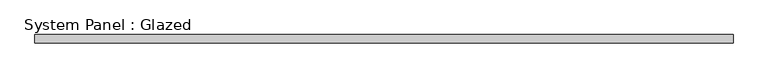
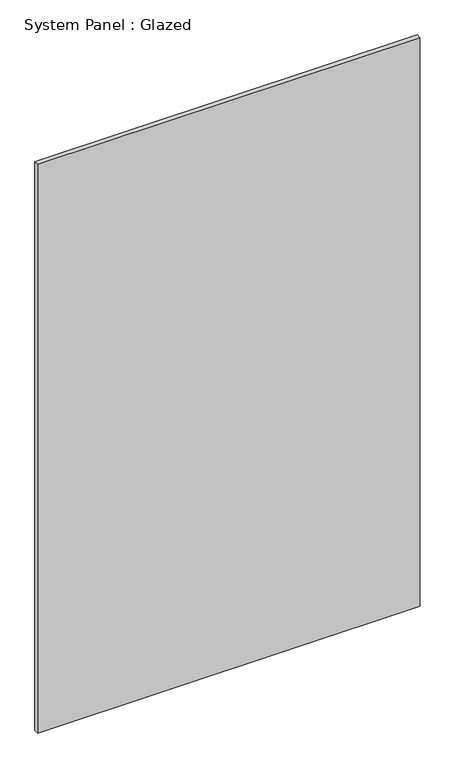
"""IFC4 building model written with IfcOpenShell, lengths in millimetres: plate geometry, System Panel : Glazed."""

from ifc_helpers import new_model, si_unit, origin, origin_with_axes, place, context, project, spatial, polyline, outline, extrude, source, transform, mapped, element, save


def system_panel_glazed_aaef7275(model_context):
    return source(origin(), model_context, "Body", "SweptSolid", [
        extrude(outline(polyline([(1050.0, 24.5), (-1050.0, 24.5), (-1050.0, 49.5), (1050.0, 49.5), (1050.0, 24.5)])), origin_with_axes(), (0.0, 0.0, 1.0), 3300.0),
    ])


if __name__ == "__main__":
    model = new_model("IFC4")
    model_context = context("Model", 3, world=origin())
    ifc_project = project(units=[si_unit("LENGTHUNIT", "METRE", prefix="MILLI")], contexts=[model_context])
    site = spatial("IfcSite", under=ifc_project)
    building = spatial("IfcBuilding", under=site)
    placement = place(None, origin())
    system_panel_glazed_shape = system_panel_glazed_aaef7275(model_context)
    element("IfcPlate", 1, ObjectType="System Panel : Glazed", at=placement, inside=building, context=model_context, shape_type="MappedRepresentation", body=[
        mapped(system_panel_glazed_shape, transform((0.0, 0.0, 0.0), x_axis=(1.0, 0.0, 0.0), y_axis=(0.0, 1.0, 0.0), z_axis=(0.0, 0.0, 1.0))),
    ])
    save(model, "model.ifc")
